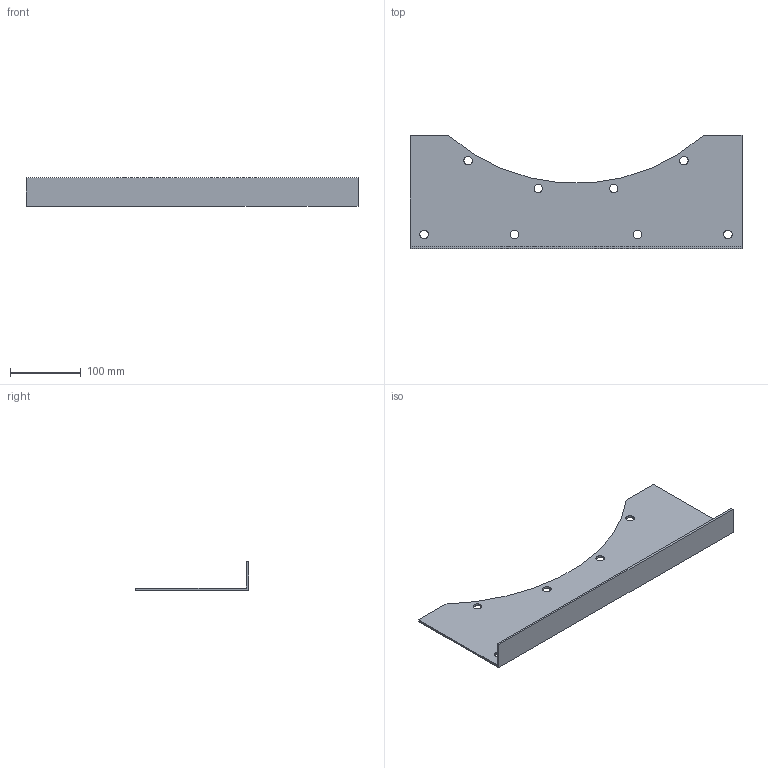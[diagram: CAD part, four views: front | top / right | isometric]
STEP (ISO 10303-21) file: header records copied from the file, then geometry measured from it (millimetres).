
FILE_DESCRIPTION(('STEP AP214'),'1');
FILE_NAME('accessory_5138902500.stp','2017-10-09T07:38:57',('TraceParts'),('TraceParts S.A.'),'Spatial InterOp 3D',' ',' ');
FILE_SCHEMA(('automotive_design'));
Length unit declared in the file: millimetre
Products named in the file (1): accessory_5138902500
Bounding box: 470 x 160 x 40 mm (x, y, z)
Volume: 224649 mm3; surface area: 154772.6 mm2
Topology: 1 solids, 1 shells, 26 faces, 72 edges, 48 vertices
Faces by surface type: cylinder 17, plane 9
Entity records: 1106 total; most frequent: DIRECTION 160, CARTESIAN_POINT 147, ORIENTED_EDGE 144, EDGE_CURVE 72, AXIS2_PLACEMENT_3D 61, VERTEX_POINT 48, EDGE_LOOP 42, LINE 38
